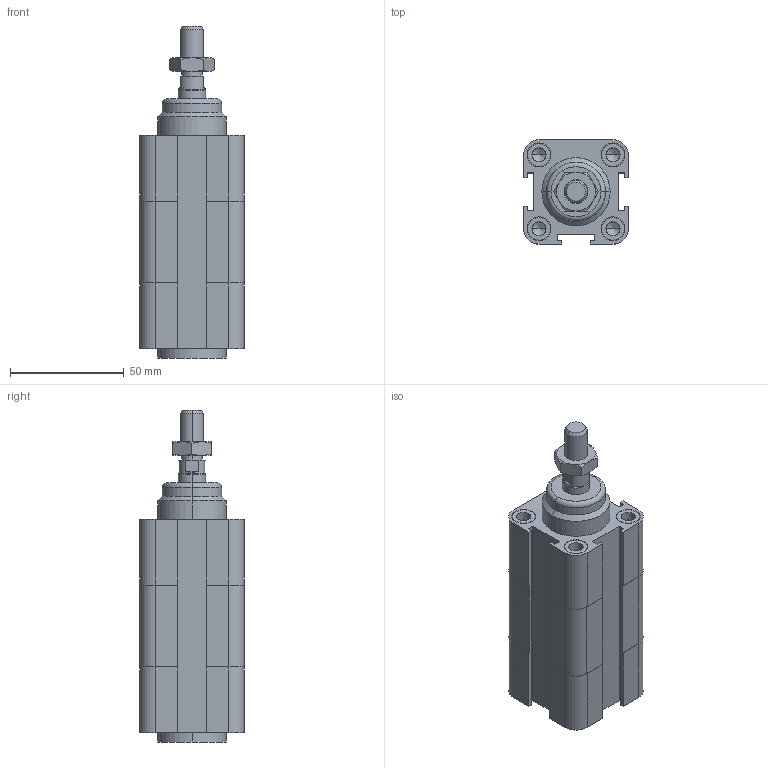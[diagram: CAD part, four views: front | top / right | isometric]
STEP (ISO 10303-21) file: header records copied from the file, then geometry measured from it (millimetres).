
FILE_DESCRIPTION((''),'2;1');
FILE_NAME('F:\Lib-3d\1380\CIL\1380_32_0000_01.stp','2004-01-07T15:54:01',('maffial1'),(''),'Autodesk Inventor 8','Autodesk Inventor 8','');
FILE_SCHEMA(('AUTOMOTIVE_DESIGN { 1 0 10303 214 1 1 1 1 }'));
Length unit declared in the file: millimetre
Products named in the file (4): 1380_32_0000_01; CPP01_32_0; CPP02_32_0; 1320_32_18F
Assembly tree (3 placements, depth 2):
  1380_32_0000_01
    CPP01_32_0
    CPP02_32_0
    1320_32_18F
Bounding box: 46 x 46 x 146 mm (x, y, z)
Volume: 186719.4 mm3; surface area: 35119.6 mm2
Topology: 3 solids, 3 shells, 244 faces, 570 edges, 356 vertices
Faces by surface type: plane 83, bspline 67, cylinder 58, cone 34, torus 2
Entity records: 7668 total; most frequent: CARTESIAN_POINT 2166, DIRECTION 1136, ORIENTED_EDGE 1108, EDGE_CURVE 554, AXIS2_PLACEMENT_3D 422, VERTEX_POINT 356, VECTOR 292, LINE 292
